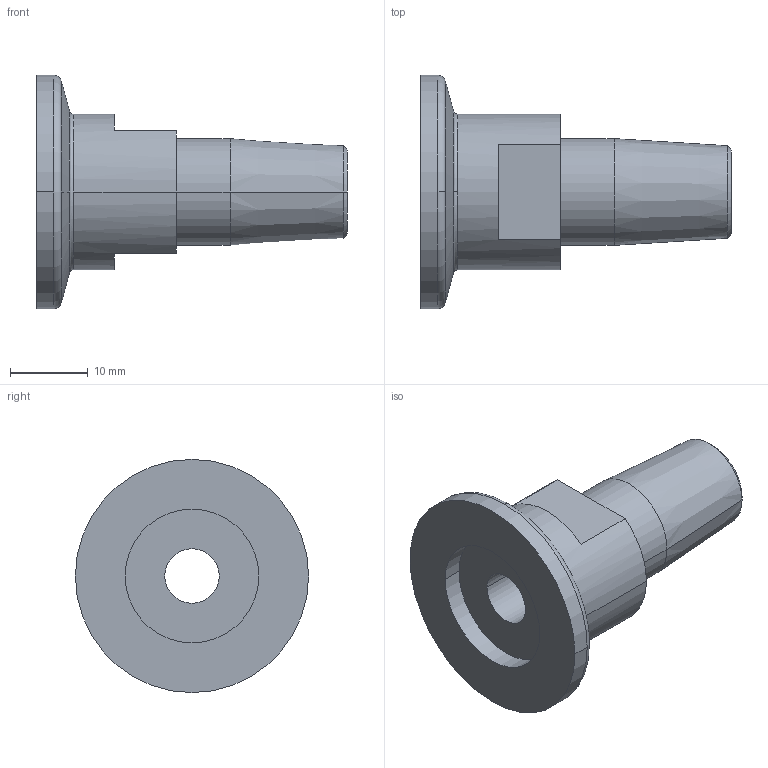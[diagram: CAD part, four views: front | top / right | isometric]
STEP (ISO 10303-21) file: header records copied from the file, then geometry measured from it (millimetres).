
FILE_DESCRIPTION((''),'2;1');
FILE_NAME('W:\211-552.stp','2003-10-13T12:43:38',('KAA'),(''),'Autodesk Inventor (R) 6.0','Autodesk Inventor (R) 6.0','');
FILE_SCHEMA(('CONFIG_CONTROL_DESIGN'));
Length unit declared in the file: millimetre
Products named in the file (1): 211-552
Bounding box: 40 x 30 x 30 mm (x, y, z)
Volume: 7719.7 mm3; surface area: 4261.8 mm2
Topology: 1 solids, 1 shells, 28 faces, 68 edges, 44 vertices
Faces by surface type: cylinder 10, plane 8, cone 6, torus 2, bspline 2
Entity records: 1023 total; most frequent: CARTESIAN_POINT 229, DIRECTION 166, ORIENTED_EDGE 136, AXIS2_PLACEMENT_3D 71, EDGE_CURVE 68, VERTEX_POINT 44, CIRCLE 44, EDGE_LOOP 32
